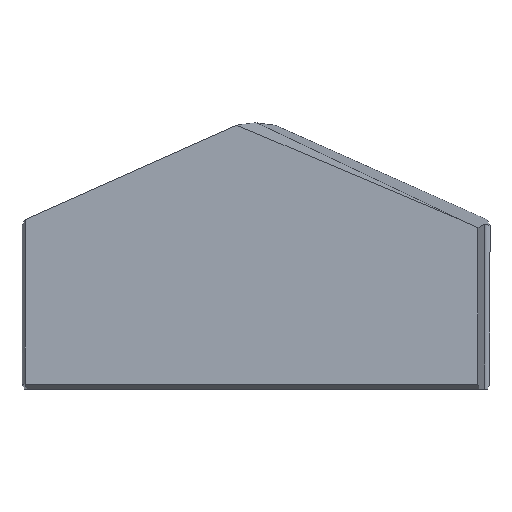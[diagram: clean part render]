
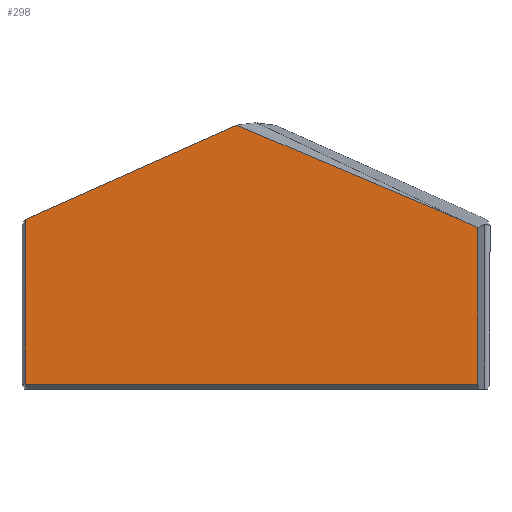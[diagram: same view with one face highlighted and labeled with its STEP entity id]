
A CAD part, top view. The second image highlights one B-rep face of the part: STEP entity #298.
In plain terms, the highlighted planar face has unit normal (0, 0, 1).
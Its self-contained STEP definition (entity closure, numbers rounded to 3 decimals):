
#9 = CARTESIAN_POINT ( 'NONE',  ( 13.54, 0., 4.8 ) ) ;
#14 = EDGE_CURVE ( 'NONE', #36, #551, #213, .T. ) ;
#34 = DIRECTION ( 'NONE',  ( 1., 0., 0. ) ) ;
#36 = VERTEX_POINT ( 'NONE', #112 ) ;
#38 = CARTESIAN_POINT ( 'NONE',  ( 5.901, 13.254, 4.8 ) ) ;
#46 = CARTESIAN_POINT ( 'NONE',  ( -14.08, 0.289, 4.8 ) ) ;
#72 = VERTEX_POINT ( 'NONE', #384 ) ;
#74 = LINE ( 'NONE', #170, #456 ) ;
#87 = ORIENTED_EDGE ( 'NONE', *, *, #14, .T. ) ;
#91 = DIRECTION ( 'NONE',  ( 1., 0., 0. ) ) ;
#111 = ORIENTED_EDGE ( 'NONE', *, *, #272, .T. ) ;
#112 = CARTESIAN_POINT ( 'NONE',  ( 13.54, 0.289, 4.8 ) ) ;
#126 = DIRECTION ( 'NONE',  ( -0.914, -0.407, 0. ) ) ;
#129 = CARTESIAN_POINT ( 'NONE',  ( -14.085, 0.296, 4.8 ) ) ;
#131 = PLANE ( 'NONE',  #197 ) ;
#132 = LINE ( 'NONE', #471, #365 ) ;
#139 = VECTOR ( 'NONE', #326, 1000. ) ;
#145 = ORIENTED_EDGE ( 'NONE', *, *, #433, .F. ) ;
#155 = DIRECTION ( 'NONE',  ( 0., 1., 0. ) ) ;
#163 = VECTOR ( 'NONE', #564, 1000. ) ;
#168 = LINE ( 'NONE', #38, #139 ) ;
#170 = CARTESIAN_POINT ( 'NONE',  ( 5.599, 13.237, 4.8 ) ) ;
#178 = CARTESIAN_POINT ( 'NONE',  ( -14.083, 0.292, 4.8 ) ) ;
#179 = VERTEX_POINT ( 'NONE', #432 ) ;
#181 = CARTESIAN_POINT ( 'NONE',  ( 0., 16.62, 4.8 ) ) ;
#182 = FACE_OUTER_BOUND ( 'NONE', #320, .T. ) ;
#184 = ORIENTED_EDGE ( 'NONE', *, *, #317, .T. ) ;
#186 = ORIENTED_EDGE ( 'NONE', *, *, #458, .T. ) ;
#197 = AXIS2_PLACEMENT_3D ( 'NONE', #448, #414, #91 ) ;
#213 = LINE ( 'NONE', #9, #514 ) ;
#222 = EDGE_CURVE ( 'NONE', #311, #36, #132, .T. ) ;
#251 = LINE ( 'NONE', #412, #163 ) ;
#272 = EDGE_CURVE ( 'NONE', #453, #72, #74, .T. ) ;
#298 = ADVANCED_FACE ( 'NONE', ( #182 ), #131, .T. ) ;
#311 = VERTEX_POINT ( 'NONE', #46 ) ;
#317 = EDGE_CURVE ( 'NONE', #496, #311, #369, .T. ) ;
#320 = EDGE_LOOP ( 'NONE', ( #410, #111, #186, #145, #184, #362, #87 ) ) ;
#321 = VECTOR ( 'NONE', #126, 1000. ) ;
#322 = CARTESIAN_POINT ( 'NONE',  ( 13.54, 9.853, 4.8 ) ) ;
#326 = DIRECTION ( 'NONE',  ( -0.914, 0.407, 0. ) ) ;
#362 = ORIENTED_EDGE ( 'NONE', *, *, #222, .T. ) ;
#365 = VECTOR ( 'NONE', #34, 1000. ) ;
#369 = B_SPLINE_CURVE_WITH_KNOTS ( 'NONE', 3,
 ( #451, #129, #178, #446 ),
 .UNSPECIFIED., .F., .F.,
 ( 4, 4 ),
 ( 0., 0. ),
 .UNSPECIFIED. ) ;
#384 = CARTESIAN_POINT ( 'NONE',  ( -1.168, 16.1, 4.8 ) ) ;
#399 = LINE ( 'NONE', #181, #321 ) ;
#410 = ORIENTED_EDGE ( 'NONE', *, *, #481, .T. ) ;
#412 = CARTESIAN_POINT ( 'NONE',  ( -14.087, 0., 4.8 ) ) ;
#414 = DIRECTION ( 'NONE',  ( 0., 0., 1. ) ) ;
#422 = CARTESIAN_POINT ( 'NONE',  ( 12.419, 10.352, 4.8 ) ) ;
#432 = CARTESIAN_POINT ( 'NONE',  ( -14.087, 10.348, 4.8 ) ) ;
#433 = EDGE_CURVE ( 'NONE', #496, #179, #251, .T. ) ;
#443 = CARTESIAN_POINT ( 'NONE',  ( -14.087, 0.3, 4.8 ) ) ;
#446 = CARTESIAN_POINT ( 'NONE',  ( -14.08, 0.289, 4.8 ) ) ;
#448 = CARTESIAN_POINT ( 'NONE',  ( 0., 0., 4.8 ) ) ;
#451 = CARTESIAN_POINT ( 'NONE',  ( -14.087, 0.3, 4.8 ) ) ;
#453 = VERTEX_POINT ( 'NONE', #422 ) ;
#456 = VECTOR ( 'NONE', #520, 1000. ) ;
#458 = EDGE_CURVE ( 'NONE', #72, #179, #399, .T. ) ;
#471 = CARTESIAN_POINT ( 'NONE',  ( 13.911, 0.289, 4.8 ) ) ;
#481 = EDGE_CURVE ( 'NONE', #551, #453, #168, .T. ) ;
#496 = VERTEX_POINT ( 'NONE', #443 ) ;
#514 = VECTOR ( 'NONE', #155, 1000. ) ;
#520 = DIRECTION ( 'NONE',  ( -0.921, 0.39, 0. ) ) ;
#551 = VERTEX_POINT ( 'NONE', #322 ) ;
#564 = DIRECTION ( 'NONE',  ( 0., 1., 0. ) ) ;
